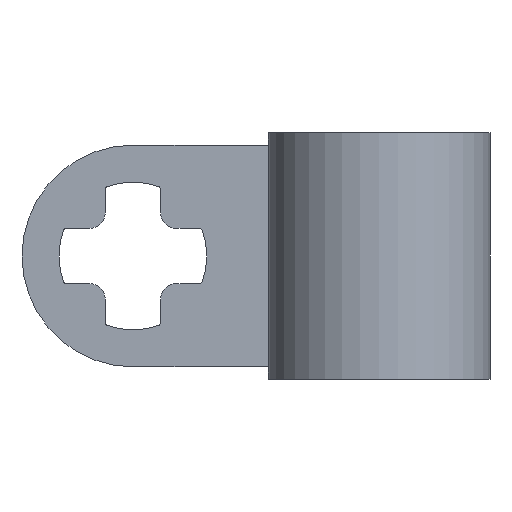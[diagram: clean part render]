
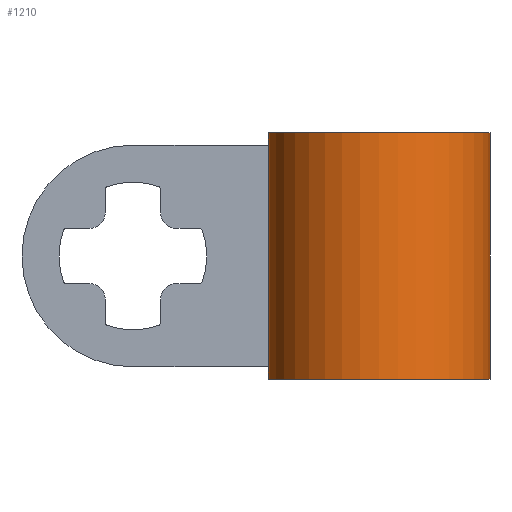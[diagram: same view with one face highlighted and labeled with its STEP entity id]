
A CAD part, front view. The second image highlights one B-rep face of the part: STEP entity #1210.
In plain terms, the highlighted cylindrical face has radius 3.6 mm (diameter 7.2 mm), a partial arc.
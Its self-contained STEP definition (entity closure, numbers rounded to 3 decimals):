
#69=CIRCLE('',#1287,3.6);
#72=CIRCLE('',#1291,3.6);
#78=CIRCLE('',#1303,3.6);
#81=CIRCLE('',#1307,3.6);
#119=CIRCLE('',#1356,3.6);
#120=CIRCLE('',#1357,3.6);
#144=LINE('',#1911,#236);
#153=LINE('',#1932,#245);
#154=LINE('',#1934,#246);
#175=LINE('',#2067,#267);
#177=LINE('',#2073,#269);
#178=LINE('',#2074,#270);
#236=VECTOR('',#1484,1000.);
#245=VECTOR('',#1503,1000.);
#246=VECTOR('',#1506,1000.);
#267=VECTOR('',#1635,1000.);
#269=VECTOR('',#1641,1000.);
#270=VECTOR('',#1642,1000.);
#487=ORIENTED_EDGE('',*,*,#793,.T.);
#488=ORIENTED_EDGE('',*,*,#794,.F.);
#489=ORIENTED_EDGE('',*,*,#710,.F.);
#490=ORIENTED_EDGE('',*,*,#715,.T.);
#491=ORIENTED_EDGE('',*,*,#734,.F.);
#492=ORIENTED_EDGE('',*,*,#727,.F.);
#493=ORIENTED_EDGE('',*,*,#731,.T.);
#494=ORIENTED_EDGE('',*,*,#728,.T.);
#495=ORIENTED_EDGE('',*,*,#702,.F.);
#496=ORIENTED_EDGE('',*,*,#795,.T.);
#497=ORIENTED_EDGE('',*,*,#796,.F.);
#498=ORIENTED_EDGE('',*,*,#791,.T.);
#702=EDGE_CURVE('',#871,#872,#69,.T.);
#710=EDGE_CURVE('',#878,#875,#72,.T.);
#715=EDGE_CURVE('',#878,#882,#144,.T.);
#727=EDGE_CURVE('',#889,#888,#153,.T.);
#728=EDGE_CURVE('',#890,#872,#154,.T.);
#731=EDGE_CURVE('',#889,#890,#78,.T.);
#734=EDGE_CURVE('',#888,#882,#81,.T.);
#791=EDGE_CURVE('',#948,#947,#175,.T.);
#793=EDGE_CURVE('',#947,#949,#119,.T.);
#794=EDGE_CURVE('',#875,#949,#177,.T.);
#795=EDGE_CURVE('',#871,#950,#178,.T.);
#796=EDGE_CURVE('',#948,#950,#120,.T.);
#871=VERTEX_POINT('',#1883);
#872=VERTEX_POINT('',#1885);
#875=VERTEX_POINT('',#1893);
#878=VERTEX_POINT('',#1899);
#882=VERTEX_POINT('',#1910);
#888=VERTEX_POINT('',#1929);
#889=VERTEX_POINT('',#1931);
#890=VERTEX_POINT('',#1935);
#947=VERTEX_POINT('',#2066);
#948=VERTEX_POINT('',#2068);
#949=VERTEX_POINT('',#2072);
#950=VERTEX_POINT('',#2075);
#1016=EDGE_LOOP('',(#487,#488,#489,#490,#491,#492,#493,#494,#495,#496,#497,
#498));
#1102=FACE_BOUND('',#1016,.T.);
#1160=CYLINDRICAL_SURFACE('',#1355,3.6);
#1210=ADVANCED_FACE('',(#1102),#1160,.T.);
#1287=AXIS2_PLACEMENT_3D('',#1884,#1460,#1461);
#1291=AXIS2_PLACEMENT_3D('',#1900,#1473,#1474);
#1303=AXIS2_PLACEMENT_3D('',#1940,#1512,#1513);
#1307=AXIS2_PLACEMENT_3D('',#1946,#1520,#1521);
#1355=AXIS2_PLACEMENT_3D('',#2070,#1637,#1638);
#1356=AXIS2_PLACEMENT_3D('',#2071,#1639,#1640);
#1357=AXIS2_PLACEMENT_3D('',#2076,#1643,#1644);
#1460=DIRECTION('',(0.,0.,-1.));
#1461=DIRECTION('',(1.,0.,0.));
#1473=DIRECTION('',(0.,0.,1.));
#1474=DIRECTION('',(1.,0.,0.));
#1484=DIRECTION('',(0.,0.,-1.));
#1503=DIRECTION('',(0.,0.,-1.));
#1506=DIRECTION('',(0.,0.,-1.));
#1512=DIRECTION('',(0.,0.,-1.));
#1513=DIRECTION('',(0.,1.,0.));
#1520=DIRECTION('',(0.,0.,-1.));
#1521=DIRECTION('',(0.,1.,0.));
#1635=DIRECTION('',(0.,0.,-1.));
#1637=DIRECTION('',(0.,0.,-1.));
#1638=DIRECTION('',(-1.,0.,0.));
#1639=DIRECTION('',(0.,0.,-1.));
#1640=DIRECTION('',(1.,0.,0.));
#1641=DIRECTION('',(0.,0.,-1.));
#1642=DIRECTION('',(0.,0.,1.));
#1643=DIRECTION('',(0.,0.,-1.));
#1644=DIRECTION('',(1.,0.,0.));
#1883=CARTESIAN_POINT('',(-3.51,-3.2,0.9));
#1884=CARTESIAN_POINT('',(0.,-4.,0.9));
#1885=CARTESIAN_POINT('',(-0.8,-0.49,0.9));
#1893=CARTESIAN_POINT('',(-3.51,-3.2,-0.9));
#1899=CARTESIAN_POINT('',(-0.8,-0.49,-0.9));
#1900=CARTESIAN_POINT('',(0.,-4.,-0.9));
#1910=CARTESIAN_POINT('',(-0.8,-0.49,-4.));
#1911=CARTESIAN_POINT('',(-0.8,-0.49,4.));
#1929=CARTESIAN_POINT('',(0.8,-0.49,-4.));
#1931=CARTESIAN_POINT('',(0.8,-0.49,4.));
#1932=CARTESIAN_POINT('',(0.8,-0.49,4.));
#1934=CARTESIAN_POINT('',(-0.8,-0.49,4.));
#1935=CARTESIAN_POINT('',(-0.8,-0.49,4.));
#1940=CARTESIAN_POINT('',(0.,-4.,4.));
#1946=CARTESIAN_POINT('',(0.,-4.,-4.));
#2066=CARTESIAN_POINT('',(-3.6,-4.,-3.6));
#2067=CARTESIAN_POINT('',(-3.6,-4.,3.6));
#2068=CARTESIAN_POINT('',(-3.6,-4.,3.6));
#2070=CARTESIAN_POINT('',(0.,-4.,4.));
#2071=CARTESIAN_POINT('',(0.,-4.,-3.6));
#2072=CARTESIAN_POINT('',(-3.51,-3.2,-3.6));
#2073=CARTESIAN_POINT('',(-3.51,-3.2,-0.9));
#2074=CARTESIAN_POINT('',(-3.51,-3.2,0.9));
#2075=CARTESIAN_POINT('',(-3.51,-3.2,3.6));
#2076=CARTESIAN_POINT('',(0.,-4.,3.6));
